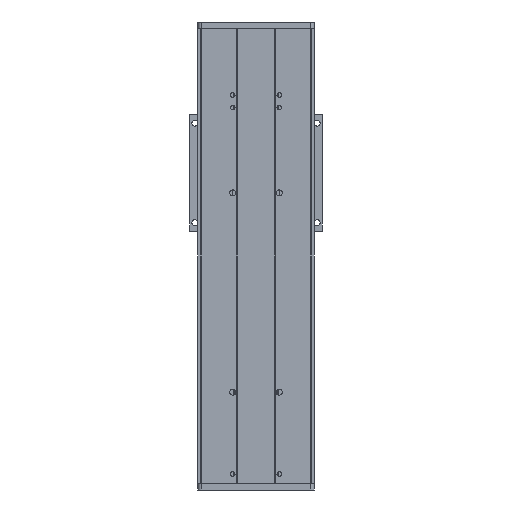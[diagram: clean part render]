
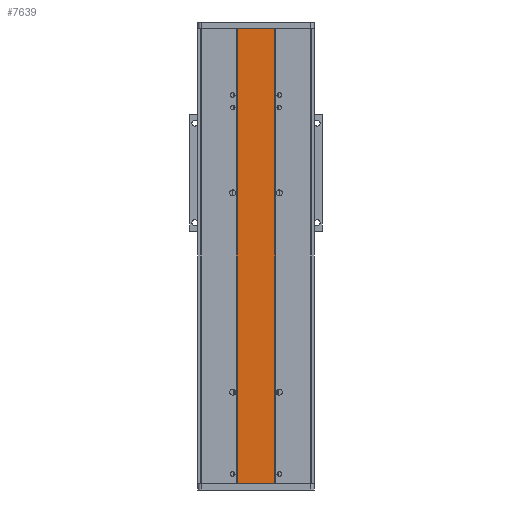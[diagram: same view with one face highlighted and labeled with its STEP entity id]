
A CAD part, front view. The second image highlights one B-rep face of the part: STEP entity #7639.
In plain terms, the highlighted planar face has unit normal (0, -1, 0).
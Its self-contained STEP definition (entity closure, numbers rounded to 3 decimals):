
#979 = FACE_OUTER_BOUND ( 'NONE', #30875, .T. ) ;
#1251 = CARTESIAN_POINT ( 'NONE',  ( 58.27, -78.814, 0. ) ) ;
#1721 = VECTOR ( 'NONE', #35341, 1000. ) ;
#1836 = ORIENTED_EDGE ( 'NONE', *, *, #17383, .F. ) ;
#2341 = VECTOR ( 'NONE', #30437, 1000. ) ;
#2801 = CARTESIAN_POINT ( 'NONE',  ( 0., -78.814, 0. ) ) ;
#3590 = DIRECTION ( 'NONE',  ( 0., -1., 0. ) ) ;
#7639 = ADVANCED_FACE ( 'NONE', ( #979 ), #23267, .T. ) ;
#8229 = CARTESIAN_POINT ( 'NONE',  ( 1.27, -78.814, 0. ) ) ;
#9181 = ORIENTED_EDGE ( 'NONE', *, *, #38677, .T. ) ;
#10558 = CARTESIAN_POINT ( 'NONE',  ( 1.27, -78.814, 1345. ) ) ;
#12194 = VERTEX_POINT ( 'NONE', #8229 ) ;
#13157 = AXIS2_PLACEMENT_3D ( 'NONE', #19323, #3590, #31201 ) ;
#14078 = ORIENTED_EDGE ( 'NONE', *, *, #41476, .F. ) ;
#16009 = VERTEX_POINT ( 'NONE', #38758 ) ;
#17383 = EDGE_CURVE ( 'NONE', #16009, #44996, #42511, .T. ) ;
#19323 = CARTESIAN_POINT ( 'NONE',  ( 1.27, -78.814, 1345. ) ) ;
#23267 = PLANE ( 'NONE',  #13157 ) ;
#28804 = VERTEX_POINT ( 'NONE', #31309 ) ;
#30437 = DIRECTION ( 'NONE',  ( 1., 0., 0. ) ) ;
#30875 = EDGE_LOOP ( 'NONE', ( #50438, #9181, #1836, #14078 ) ) ;
#30961 = EDGE_CURVE ( 'NONE', #28804, #12194, #32876, .T. ) ;
#31201 = DIRECTION ( 'NONE',  ( 0., 0., -1. ) ) ;
#31309 = CARTESIAN_POINT ( 'NONE',  ( 1.27, -78.814, 685. ) ) ;
#32876 = LINE ( 'NONE', #10558, #34107 ) ;
#34104 = VECTOR ( 'NONE', #38416, 1000. ) ;
#34107 = VECTOR ( 'NONE', #34189, 1000. ) ;
#34189 = DIRECTION ( 'NONE',  ( 0., 0., -1. ) ) ;
#34419 = CARTESIAN_POINT ( 'NONE',  ( 0., -78.814, 685. ) ) ;
#35341 = DIRECTION ( 'NONE',  ( 0., 0., -1. ) ) ;
#35502 = CARTESIAN_POINT ( 'NONE',  ( 58.27, -78.814, 1345. ) ) ;
#38416 = DIRECTION ( 'NONE',  ( 1., 0., 0. ) ) ;
#38677 = EDGE_CURVE ( 'NONE', #12194, #44996, #43142, .T. ) ;
#38758 = CARTESIAN_POINT ( 'NONE',  ( 58.27, -78.814, 685. ) ) ;
#41476 = EDGE_CURVE ( 'NONE', #28804, #16009, #44620, .T. ) ;
#42511 = LINE ( 'NONE', #35502, #1721 ) ;
#43142 = LINE ( 'NONE', #2801, #2341 ) ;
#44620 = LINE ( 'NONE', #34419, #34104 ) ;
#44996 = VERTEX_POINT ( 'NONE', #1251 ) ;
#50438 = ORIENTED_EDGE ( 'NONE', *, *, #30961, .T. ) ;
